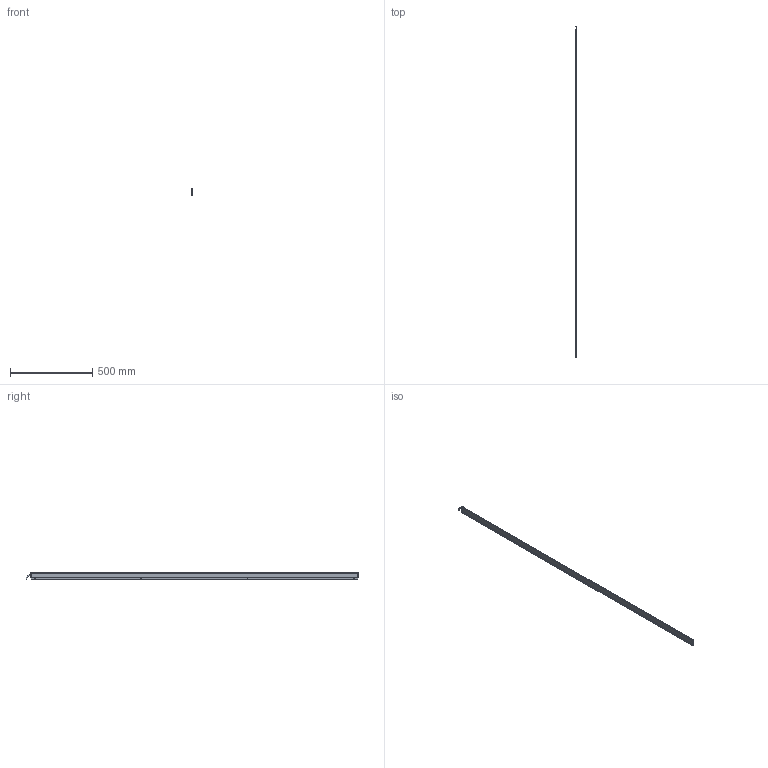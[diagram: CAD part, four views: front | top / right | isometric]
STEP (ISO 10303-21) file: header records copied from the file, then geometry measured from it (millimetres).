
FILE_DESCRIPTION (( 'STEP AP214' ), '1' );
FILE_NAME ('ILG-L-K1-1986mm.STEP', '2017-07-11T07:14:19', ( '' ), ( '' ), 'SwSTEP 2.0', 'SolidWorks 2016', '' );
FILE_SCHEMA (( 'AUTOMOTIVE_DESIGN' ));
Length unit declared in the file: millimetre
Products named in the file (1): ILG-L-K1-1986mm
Bounding box: 9 x 2014.25 x 40.71 mm (x, y, z)
Volume: 280172.9 mm3; surface area: 390259.1 mm2
Topology: 9 solids, 9 shells, 432 faces, 1114 edges, 702 vertices
Faces by surface type: plane 205, cylinder 153, cone 64, torus 10
Entity records: 18006 total; most frequent: CARTESIAN_POINT 2397, DIRECTION 2342, ORIENTED_EDGE 2212, EDGE_CURVE 1106, AXIS2_PLACEMENT_3D 855, VERTEX_POINT 702, VECTOR 632, LINE 632
